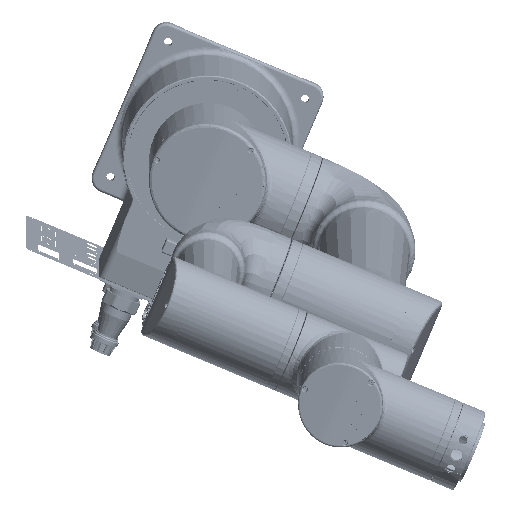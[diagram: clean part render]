
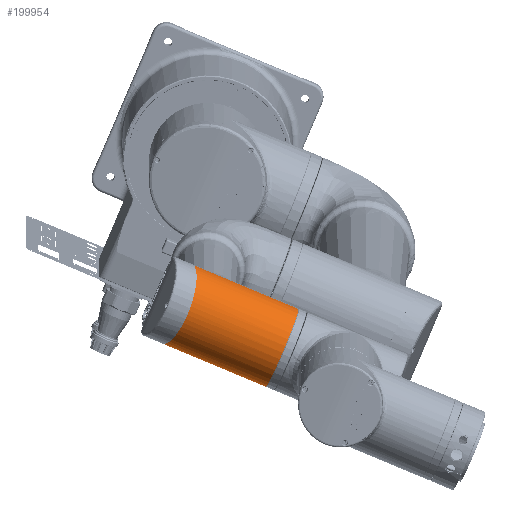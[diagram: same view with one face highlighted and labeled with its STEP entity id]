
A CAD part, top view. The second image highlights one B-rep face of the part: STEP entity #199954.
In plain terms, the highlighted cylindrical face has radius 60 mm (diameter 120 mm), a partial arc.
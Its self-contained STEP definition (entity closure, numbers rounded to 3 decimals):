
#190177=CARTESIAN_POINT('',(169.985,133.024,
-1561.437));
#190178=CARTESIAN_POINT('',(168.24,134.822,
-1568.316));
#190179=CARTESIAN_POINT('',(165.464,141.043,
-1582.824));
#190180=CARTESIAN_POINT('',(165.536,155.992,
-1598.506));
#190181=CARTESIAN_POINT('',(167.992,170.46,
-1606.896));
#190182=CARTESIAN_POINT('',(170.836,181.769,
-1610.82));
#190183=CARTESIAN_POINT('',(174.458,192.895,
-1612.338));
#190184=CARTESIAN_POINT('',(178.441,203.001,
-1611.744));
#190185=CARTESIAN_POINT('',(182.889,212.629,
-1609.317));
#190186=CARTESIAN_POINT('',(188.082,222.135,
-1604.642));
#190187=CARTESIAN_POINT('',(193.687,230.6,
-1597.69));
#190188=CARTESIAN_POINT('',(201.317,239.737,
-1585.689));
#190189=CARTESIAN_POINT('',(210.158,245.649,
-1566.813));
#190190=CARTESIAN_POINT('',(214.927,244.095,
-1551.59));
#190191=CARTESIAN_POINT('',(216.672,242.297,
-1544.712));
#190196=CARTESIAN_POINT('',(44.796,249.67,
-1543.59));
#190197=DIRECTION('',(0.921,-0.385,-0.059));
#190198=DIRECTION('',(-0.389,-0.911,
-0.139));
#190199=AXIS2_PLACEMENT_3D('',#190196,#190197,#190198);
#190204=CARTESIAN_POINT('',(44.796,249.67,
-1543.59));
#190205=DIRECTION('',(0.921,-0.385,-0.059));
#190206=DIRECTION('',(-0.054,0.023,-0.998));
#190207=AXIS2_PLACEMENT_3D('',#190204,#190205,#190206);
#190546=DIRECTION('',(0.921,-0.385,-0.059));
#190547=VECTOR('',#190546,161.236);
#190548=CARTESIAN_POINT('',(68.14,304.306,
-1535.227));
#190549=LINE('',#190548,#190547);
#190625=DIRECTION('',(-0.921,0.385,0.059));
#190626=VECTOR('',#190625,161.236);
#190627=CARTESIAN_POINT('',(169.985,133.024,
-1561.437));
#190628=LINE('',#190627,#190626);
#196984=VERTEX_POINT('',#190177);
#196985=VERTEX_POINT('',#190191);
#196989=CARTESIAN_POINT('',(41.539,251.029,
-1603.486));
#196990=CARTESIAN_POINT('',(68.14,304.306,
-1535.227));
#196991=VERTEX_POINT('',#196989);
#196992=VERTEX_POINT('',#196990);
#196993=CARTESIAN_POINT('',(21.453,195.033,
-1551.952));
#196994=VERTEX_POINT('',#196993);
#199938=CARTESIAN_POINT('',(58.154,244.093,
-1544.443));
#199939=DIRECTION('',(0.921,-0.385,-0.059));
#199940=DIRECTION('',(-0.389,-0.911,
-0.139));
#199941=AXIS2_PLACEMENT_3D('',#199938,#199939,#199940);
#199942=CYLINDRICAL_SURFACE('',#199941,60.);
#199944=ORIENTED_EDGE('',*,*,#199943,.F.);
#199946=ORIENTED_EDGE('',*,*,#199945,.F.);
#199948=ORIENTED_EDGE('',*,*,#199947,.F.);
#199949=ORIENTED_EDGE('',*,*,#199920,.T.);
#199951=ORIENTED_EDGE('',*,*,#199950,.F.);
#199952=EDGE_LOOP('',(#199944,#199946,#199948,#199949,#199951));
#199953=FACE_OUTER_BOUND('',#199952,.F.);
#190192=B_SPLINE_CURVE_WITH_KNOTS('',3,(#190177,#190178,#190179,#190180,#190181,
#190182,#190183,#190184,#190185,#190186,#190187,#190188,#190189,#190190,
#190191),.UNSPECIFIED.,.F.,.F.,(4,1,1,1,1,1,1,1,1,1,1,1,4),(0.,0.125,0.25,
0.313,0.375,0.438,0.5,0.563,0.625,0.688,0.75,0.875,1.),
.UNSPECIFIED.);
#190200=CIRCLE('',#190199,60.);
#190208=CIRCLE('',#190207,60.);
#199920=EDGE_CURVE('',#196984,#196985,#190192,.T.);
#199943=EDGE_CURVE('',#196991,#196992,#190208,.T.);
#199945=EDGE_CURVE('',#196994,#196991,#190200,.T.);
#199947=EDGE_CURVE('',#196984,#196994,#190628,.T.);
#199950=EDGE_CURVE('',#196992,#196985,#190549,.T.);
#199954=ADVANCED_FACE('',(#199953),#199942,.T.);
